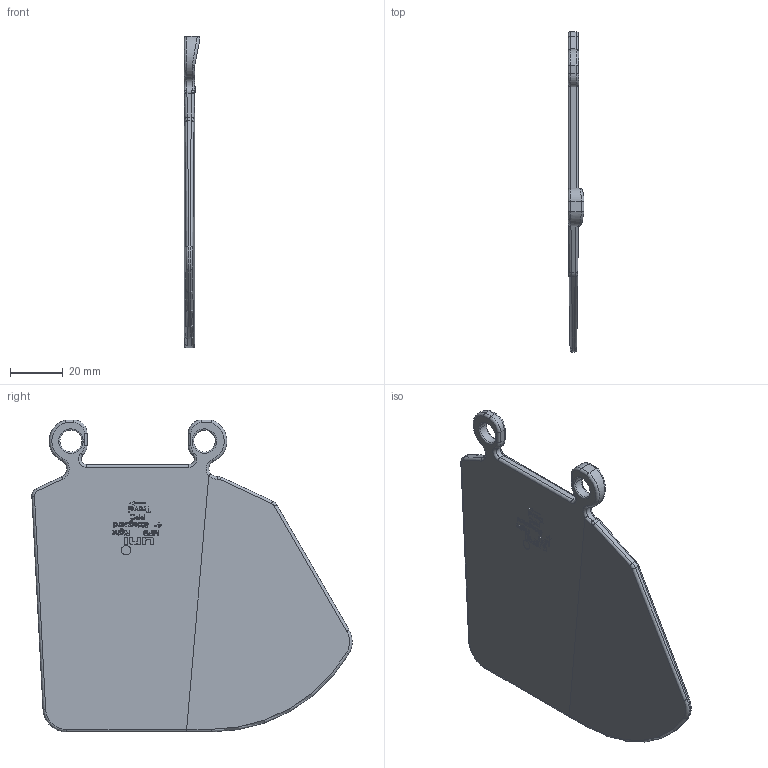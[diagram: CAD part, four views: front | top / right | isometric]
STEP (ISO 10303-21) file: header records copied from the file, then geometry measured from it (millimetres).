
FILE_DESCRIPTION((''),'2;1');
FILE_NAME('UNI_MPB_SIDE_GUARD_4_RIGHT','2009-08-28T',('jas'),(''),'PRO/ENGINEER BY PARAMETRIC TECHNOLOGY CORPORATION, 2008490','PRO/ENGINEER BY PARAMETRIC TECHNOLOGY CORPORATION, 2008490','');
FILE_SCHEMA(('AUTOMOTIVE_DESIGN { 1 0 10303 214 1 1 1 1 }'));
Length unit declared in the file: millimetre
Products named in the file (1): UNI_MPB_SIDE_GUARD_4_RIGHT
Bounding box: 6 x 121.81 x 118.6 mm (x, y, z)
Volume: 39493.7 mm3; surface area: 22626 mm2
Topology: 1 solids, 1 shells, 1005 faces, 2821 edges, 1869 vertices
Faces by surface type: plane 897, cylinder 58, torus 39, bspline 11
Entity records: 33189 total; most frequent: CARTESIAN_POINT 7163, ORIENTED_EDGE 5642, DIRECTION 4940, EDGE_CURVE 2821, VECTOR 2584, LINE 2584, VERTEX_POINT 1869, AXIS2_PLACEMENT_3D 1178
